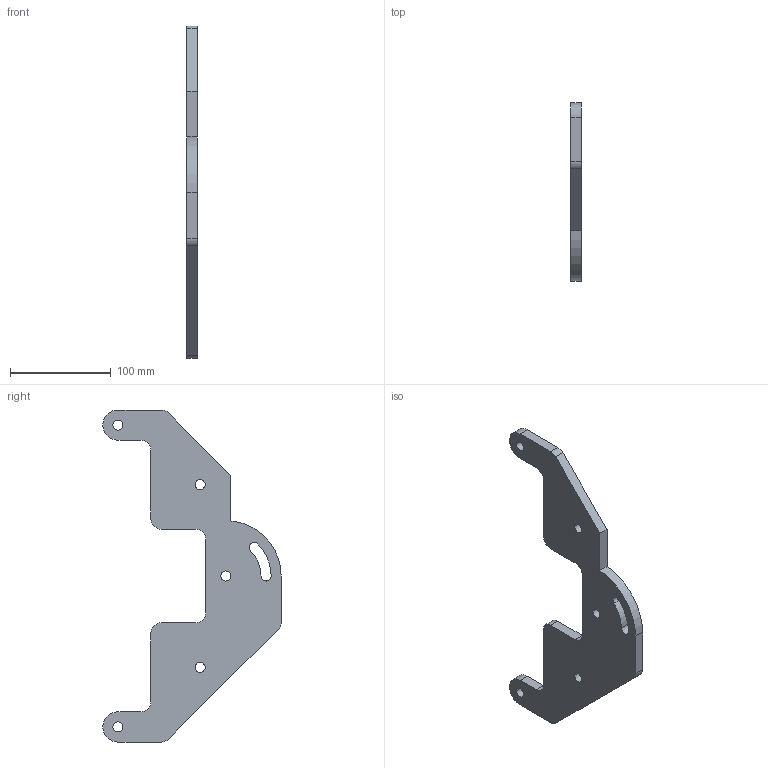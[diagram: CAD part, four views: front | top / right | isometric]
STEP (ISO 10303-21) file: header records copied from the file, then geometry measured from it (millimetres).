
FILE_DESCRIPTION(('CATIA V5 STEP Exchange'),'2;1');
FILE_NAME('C:\Users\gener\Documents\Lijadora Javitxu corte laser\Soporte poleas reducido.stp','2022-10-12T13:29:46+00:00',('none'),('none'),'CATIA Version 5 Release 20 GA (IN-10)','CATIA V5 STEP AP203','none');
FILE_SCHEMA(('CONFIG_CONTROL_DESIGN'));
Length unit declared in the file: millimetre
Products named in the file (1): Soporte poleas
Bounding box: 10 x 177.23 x 330 mm (x, y, z)
Volume: 246901.5 mm3; surface area: 62266.7 mm2
Topology: 1 solids, 1 shells, 41 faces, 117 edges, 78 vertices
Faces by surface type: cylinder 26, plane 15
Entity records: 1372 total; most frequent: CARTESIAN_POINT 236, ORIENTED_EDGE 234, DIRECTION 197, EDGE_CURVE 117, AXIS2_PLACEMENT_3D 93, VERTEX_POINT 78, VECTOR 65, LINE 65
